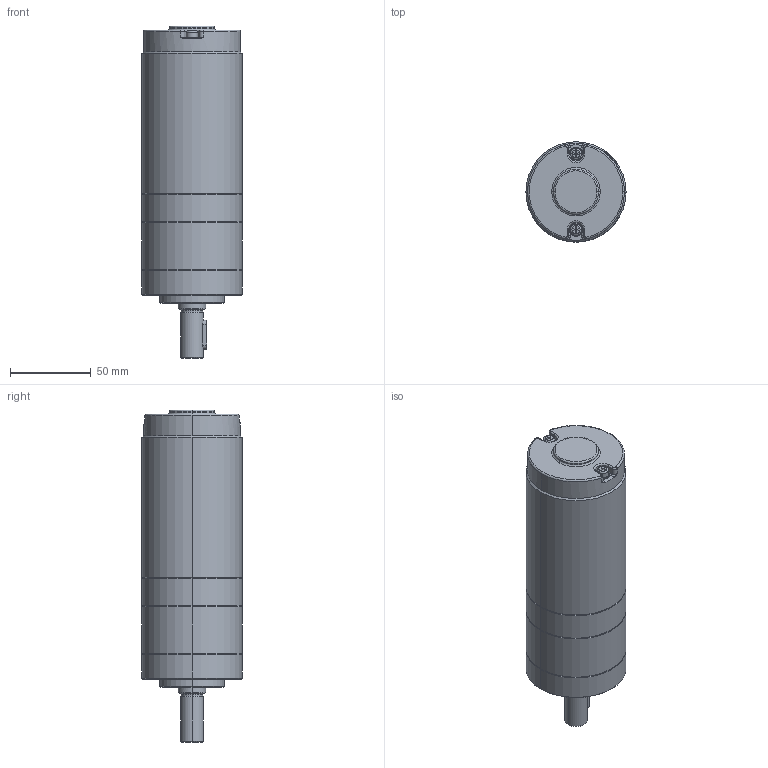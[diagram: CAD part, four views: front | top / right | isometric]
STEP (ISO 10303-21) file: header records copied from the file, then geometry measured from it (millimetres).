
FILE_DESCRIPTION (( 'STEP AP203' ), '1' );
FILE_NAME ('62ZPN衄芃珨撰熬厒60W.STEP', '2021-07-17T08:19:17', ( '' ), ( '' ), 'SwSTEP 2.0', 'SolidWorks 2021', '' );
FILE_SCHEMA (( 'CONFIG_CONTROL_DESIGN' ));
Length unit declared in the file: millimetre
Products named in the file (1): 62ZPN衄芃珨撰熬厒60W
Bounding box: 62 x 62 x 205.6 mm (x, y, z)
Volume: 503247 mm3; surface area: 43089.7 mm2
Topology: 1 solids, 1 shells, 271 faces, 633 edges, 379 vertices
Faces by surface type: plane 98, cylinder 95, cone 44, torus 27, bspline 7
Entity records: 8192 total; most frequent: CARTESIAN_POINT 1873, DIRECTION 1386, ORIENTED_EDGE 1242, EDGE_CURVE 621, AXIS2_PLACEMENT_3D 528, VERTEX_POINT 379, VECTOR 330, LINE 330
